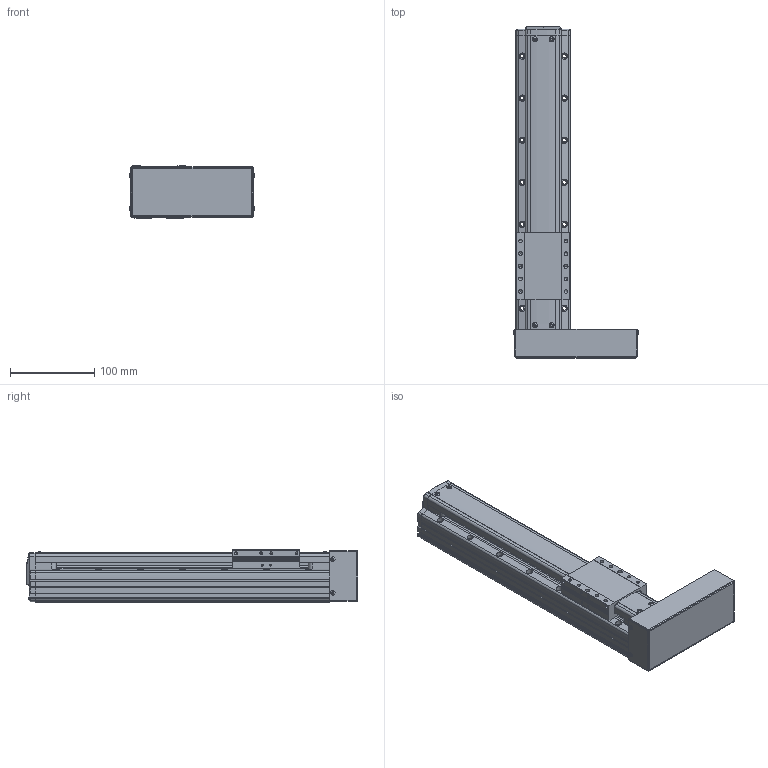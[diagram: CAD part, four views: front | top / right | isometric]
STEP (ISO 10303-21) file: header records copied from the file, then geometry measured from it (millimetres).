
FILE_DESCRIPTION(('STEP AP214'),'1');
FILE_NAME('Z:/Web/3D/PSA65/STP/PSA65-200 (3D)/PSA65ㅁㅁ-200PR.stp','2014-06-25T03:29:11',(' '),(' '),'Spatial InterOp 3D',' ',' ');
FILE_SCHEMA(('automotive_design'));
Length unit declared in the file: millimetre
Products named in the file (49): SLIDE; RRCV-PA060; 1; 2; 3; 4; 5; 6; 7; 8; 9; 10; 11; 12; 13; 14; 15; 16; 17; 18; 19; 20; 21; 22; 23; 24; 25; 26; 27; 28; 29; 30; 31; 스크루 : Round - M3.0 x 8.0; RN8 x 0.75; SHAFT-SAN65; BASE; 스크루 : Round - M3.0 x 6.0; BTCV-SAN65; BHCS M3 X 6L
Bounding box: 149.13 x 394.8 x 62 mm (x, y, z)
Volume: 1402112.7 mm3; surface area: 200732.2 mm2
Topology: 49 solids, 49 shells, 1727 faces, 4571 edges, 2914 vertices
Faces by surface type: plane 1034, cylinder 465, cone 163, sphere 30, bspline 19, torus 16
Entity records: 68540 total; most frequent: CARTESIAN_POINT 10846, DIRECTION 9090, ORIENTED_EDGE 8914, EDGE_CURVE 4457, LINE 3174, VECTOR 3174, AXIS2_PLACEMENT_3D 2958, VERTEX_POINT 2914
